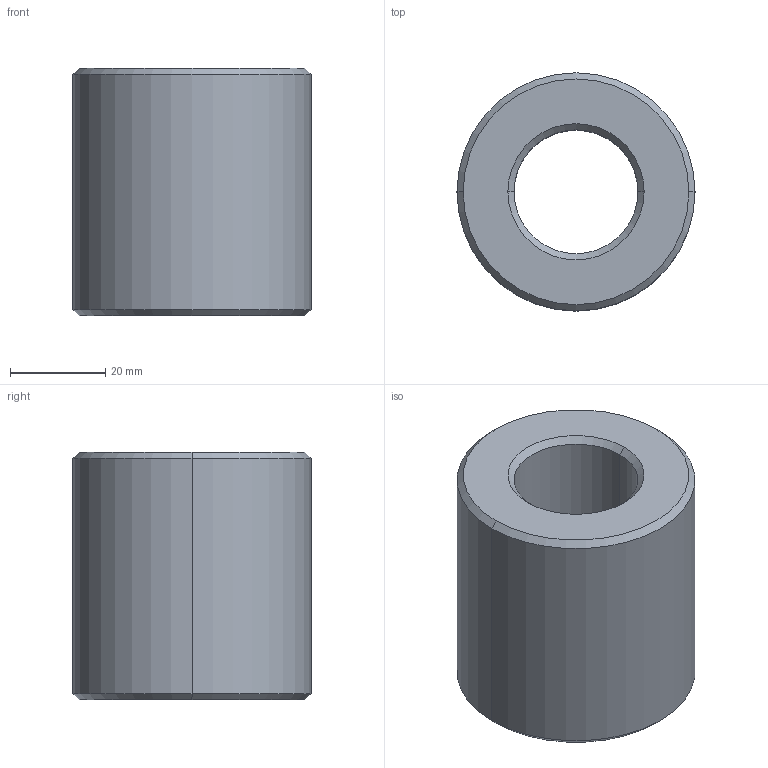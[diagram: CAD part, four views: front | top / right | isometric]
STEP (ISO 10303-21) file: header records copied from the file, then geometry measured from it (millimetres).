
FILE_DESCRIPTION (( 'STEP AP203' ), '1' );
FILE_NAME ('L1330.R26-10.step', '2024-10-24T09:27:45', ( '' ), ( '' ), 'SwSTEP 2.0', 'SolidWorks 2019', '' );
FILE_SCHEMA (( 'CONFIG_CONTROL_DESIGN' ));
Length unit declared in the file: millimetre
Products named in the file (1): L1330.R26-10
Bounding box: 50 x 50 x 52 mm (x, y, z)
Volume: 74089.9 mm3; surface area: 14917.1 mm2
Topology: 1 solids, 1 shells, 14 faces, 28 edges, 16 vertices
Faces by surface type: cone 8, cylinder 4, plane 2
Entity records: 445 total; most frequent: DIRECTION 74, CARTESIAN_POINT 59, ORIENTED_EDGE 56, AXIS2_PLACEMENT_3D 31, EDGE_CURVE 28, CIRCLE 16, VERTEX_POINT 16, EDGE_LOOP 16
